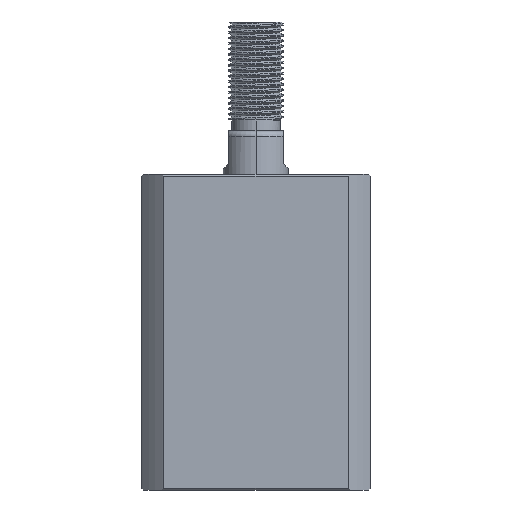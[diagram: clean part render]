
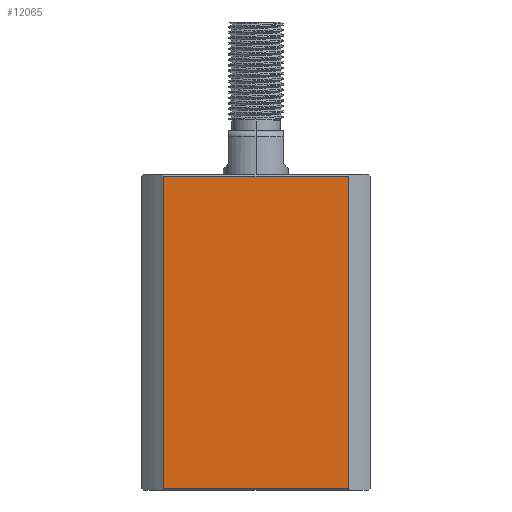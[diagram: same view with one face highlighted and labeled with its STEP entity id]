
A CAD part, left-side view. The second image highlights one B-rep face of the part: STEP entity #12065.
In plain terms, the highlighted planar face has unit normal (-1, 0, 0).
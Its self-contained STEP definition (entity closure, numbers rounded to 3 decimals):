
#230 = DIRECTION ( 'NONE',  ( 0., 1., 0. ) ) ;
#675 = EDGE_LOOP ( 'NONE', ( #8460, #4870, #5626, #12840 ) ) ;
#1141 = DIRECTION ( 'NONE',  ( 0., 1., 0. ) ) ;
#2295 = DIRECTION ( 'NONE',  ( 0., 0., -1. ) ) ;
#2817 = EDGE_CURVE ( 'NONE', #5746, #5916, #4830, .T. ) ;
#4325 = CARTESIAN_POINT ( 'NONE',  ( -21., 21., 0.3 ) ) ;
#4830 = LINE ( 'NONE', #7993, #14086 ) ;
#4870 = ORIENTED_EDGE ( 'NONE', *, *, #8095, .T. ) ;
#5626 = ORIENTED_EDGE ( 'NONE', *, *, #8785, .F. ) ;
#5746 = VERTEX_POINT ( 'NONE', #6604 ) ;
#5916 = VERTEX_POINT ( 'NONE', #10666 ) ;
#5924 = PLANE ( 'NONE',  #12445 ) ;
#6034 = CARTESIAN_POINT ( 'NONE',  ( -21., 16.971, 0.3 ) ) ;
#6188 = CARTESIAN_POINT ( 'NONE',  ( -21., 16.971, -42. ) ) ;
#6604 = CARTESIAN_POINT ( 'NONE',  ( -21., -16.971, 57.7 ) ) ;
#7080 = DIRECTION ( 'NONE',  ( 1., 0., 0. ) ) ;
#7326 = DIRECTION ( 'NONE',  ( 0., 0., 1. ) ) ;
#7607 = VECTOR ( 'NONE', #2295, 1000. ) ;
#7833 = VERTEX_POINT ( 'NONE', #6034 ) ;
#7993 = CARTESIAN_POINT ( 'NONE',  ( -21., 21., 57.7 ) ) ;
#8095 = EDGE_CURVE ( 'NONE', #7833, #8173, #13720, .T. ) ;
#8173 = VERTEX_POINT ( 'NONE', #9581 ) ;
#8460 = ORIENTED_EDGE ( 'NONE', *, *, #11043, .F. ) ;
#8749 = FACE_OUTER_BOUND ( 'NONE', #675, .T. ) ;
#8785 = EDGE_CURVE ( 'NONE', #5746, #8173, #13434, .T. ) ;
#9191 = CARTESIAN_POINT ( 'NONE',  ( -21., -16.971, -42. ) ) ;
#9302 = CARTESIAN_POINT ( 'NONE',  ( -21., 21., 58. ) ) ;
#9581 = CARTESIAN_POINT ( 'NONE',  ( -21., -16.971, 0.3 ) ) ;
#10666 = CARTESIAN_POINT ( 'NONE',  ( -21., 16.971, 57.7 ) ) ;
#11043 = EDGE_CURVE ( 'NONE', #7833, #5916, #11541, .T. ) ;
#11181 = DIRECTION ( 'NONE',  ( 0., -1., 0. ) ) ;
#11191 = VECTOR ( 'NONE', #7326, 1000. ) ;
#11318 = VECTOR ( 'NONE', #11181, 1000. ) ;
#11541 = LINE ( 'NONE', #6188, #11191 ) ;
#12065 = ADVANCED_FACE ( 'NONE', ( #8749 ), #5924, .F. ) ;
#12445 = AXIS2_PLACEMENT_3D ( 'NONE', #9302, #7080, #230 ) ;
#12840 = ORIENTED_EDGE ( 'NONE', *, *, #2817, .T. ) ;
#13434 = LINE ( 'NONE', #9191, #7607 ) ;
#13720 = LINE ( 'NONE', #4325, #11318 ) ;
#14086 = VECTOR ( 'NONE', #1141, 1000. ) ;
